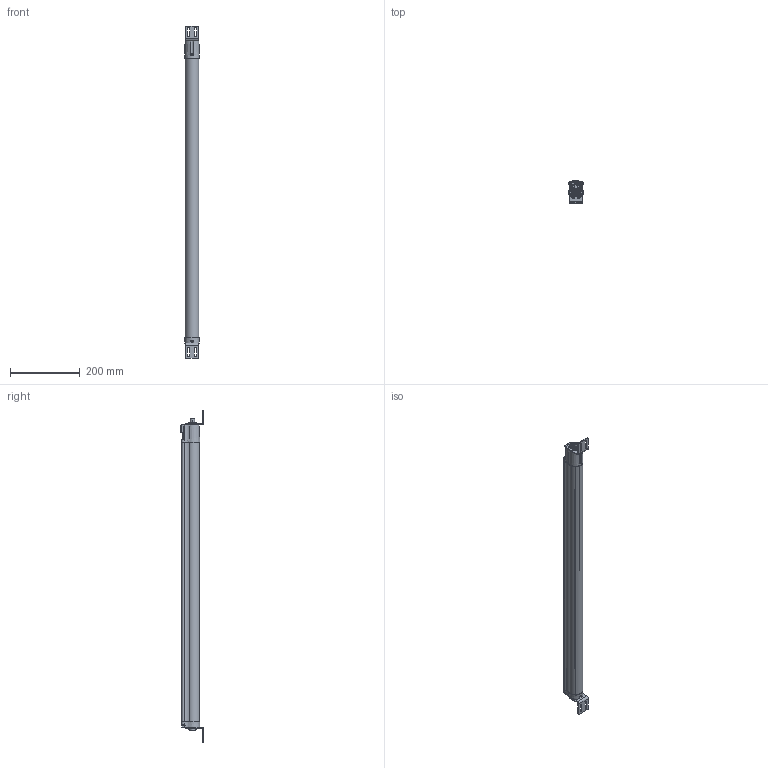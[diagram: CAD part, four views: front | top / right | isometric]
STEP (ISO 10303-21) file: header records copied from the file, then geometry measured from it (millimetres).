
FILE_DESCRIPTION((''),'2;1');
FILE_NAME('440L-G4J0800YD_SW0002','2024-07-29T15:36:01',('AKhan24'),('Rockwell Automation'),'CREO PARAMETRIC BY PTC INC, 2022424','CREO PARAMETRIC BY PTC INC, 2022424','');
FILE_SCHEMA(('AUTOMOTIVE_DESIGN { 1 0 10303 214 1 1 1 1 }'));
Products named in the file (1): 440L-G4J0800YD_SW0002
Bounding box: 42.01 x 66.8 x 952 mm (x, y, z)
Volume: 442948.5 mm3; surface area: 376129.1 mm2
Topology: 1 solids, 1 shells, 1747 faces, 4571 edges, 2870 vertices
Faces by surface type: plane 682, cylinder 563, torus 205, cone 176, bspline 73, sphere 48
Entity records: 93908 total; most frequent: CARTESIAN_POINT 24305, DIRECTION 9418, ORIENTED_EDGE 9138, PRESENTATION_STYLE_ASSIGNMENT 6317, STYLED_ITEM 4570, CURVE_STYLE 4569, EDGE_CURVE 4569, AXIS2_PLACEMENT_3D 3692
